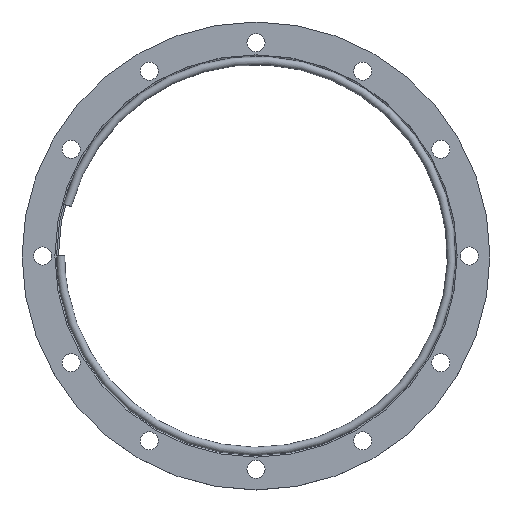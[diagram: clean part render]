
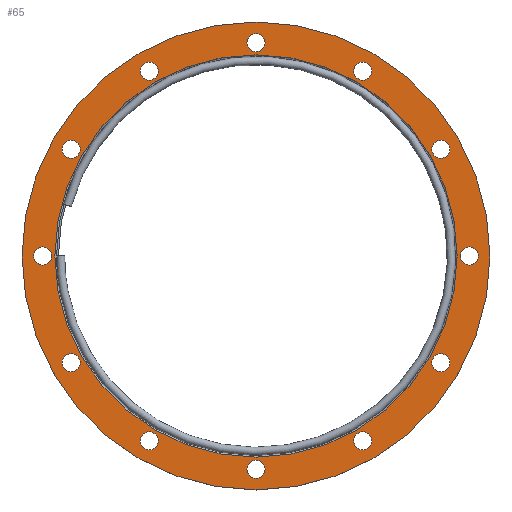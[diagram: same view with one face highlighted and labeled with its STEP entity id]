
A CAD part, top view. The second image highlights one B-rep face of the part: STEP entity #65.
In plain terms, the highlighted planar face has unit normal (0, 0, 1).
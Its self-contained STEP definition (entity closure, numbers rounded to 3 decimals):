
#65 = ADVANCED_FACE( '', ( #139, #140, #141, #142, #143, #144, #145, #146, #147, #148, #149, #150, #151, #152 ), #153, .T. );
#139 = FACE_BOUND( '', #262, .T. );
#140 = FACE_BOUND( '', #263, .T. );
#141 = FACE_BOUND( '', #264, .T. );
#142 = FACE_BOUND( '', #265, .T. );
#143 = FACE_BOUND( '', #266, .T. );
#144 = FACE_BOUND( '', #267, .T. );
#145 = FACE_BOUND( '', #268, .T. );
#146 = FACE_BOUND( '', #269, .T. );
#147 = FACE_BOUND( '', #270, .T. );
#148 = FACE_BOUND( '', #271, .T. );
#149 = FACE_BOUND( '', #272, .T. );
#150 = FACE_BOUND( '', #273, .T. );
#151 = FACE_BOUND( '', #274, .T. );
#152 = FACE_OUTER_BOUND( '', #275, .T. );
#153 = PLANE( '', #276 );
#262 = EDGE_LOOP( '', ( #383 ) );
#263 = EDGE_LOOP( '', ( #384 ) );
#264 = EDGE_LOOP( '', ( #385 ) );
#265 = EDGE_LOOP( '', ( #386 ) );
#266 = EDGE_LOOP( '', ( #387 ) );
#267 = EDGE_LOOP( '', ( #388 ) );
#268 = EDGE_LOOP( '', ( #389 ) );
#269 = EDGE_LOOP( '', ( #390 ) );
#270 = EDGE_LOOP( '', ( #391 ) );
#271 = EDGE_LOOP( '', ( #392 ) );
#272 = EDGE_LOOP( '', ( #393 ) );
#273 = EDGE_LOOP( '', ( #394 ) );
#274 = EDGE_LOOP( '', ( #395 ) );
#275 = EDGE_LOOP( '', ( #396 ) );
#276 = AXIS2_PLACEMENT_3D( '', #397, #398, #399 );
#383 = ORIENTED_EDGE( '', *, *, #521, .F. );
#384 = ORIENTED_EDGE( '', *, *, #522, .F. );
#385 = ORIENTED_EDGE( '', *, *, #523, .F. );
#386 = ORIENTED_EDGE( '', *, *, #510, .F. );
#387 = ORIENTED_EDGE( '', *, *, #524, .F. );
#388 = ORIENTED_EDGE( '', *, *, #525, .F. );
#389 = ORIENTED_EDGE( '', *, *, #526, .F. );
#390 = ORIENTED_EDGE( '', *, *, #527, .F. );
#391 = ORIENTED_EDGE( '', *, *, #528, .F. );
#392 = ORIENTED_EDGE( '', *, *, #529, .F. );
#393 = ORIENTED_EDGE( '', *, *, #530, .F. );
#394 = ORIENTED_EDGE( '', *, *, #531, .F. );
#395 = ORIENTED_EDGE( '', *, *, #514, .T. );
#396 = ORIENTED_EDGE( '', *, *, #532, .F. );
#397 = CARTESIAN_POINT( '', ( -122.5, 0., 16. ) );
#398 = DIRECTION( '', ( 0., 0., 1. ) );
#399 = DIRECTION( '', ( 1., 0., 0. ) );
#510 = EDGE_CURVE( '', #566, #566, #567, .T. );
#514 = EDGE_CURVE( '', #573, #573, #574, .T. );
#521 = EDGE_CURVE( '', #584, #584, #585, .T. );
#522 = EDGE_CURVE( '', #586, #586, #587, .T. );
#523 = EDGE_CURVE( '', #588, #588, #589, .T. );
#524 = EDGE_CURVE( '', #590, #590, #591, .T. );
#525 = EDGE_CURVE( '', #592, #592, #593, .T. );
#526 = EDGE_CURVE( '', #594, #594, #595, .T. );
#527 = EDGE_CURVE( '', #596, #596, #597, .T. );
#528 = EDGE_CURVE( '', #598, #598, #599, .T. );
#529 = EDGE_CURVE( '', #600, #600, #601, .T. );
#530 = EDGE_CURVE( '', #602, #602, #603, .T. );
#531 = EDGE_CURVE( '', #604, #604, #605, .T. );
#532 = EDGE_CURVE( '', #606, #606, #607, .T. );
#566 = VERTEX_POINT( '', #654 );
#567 = CIRCLE( '', #655, 5.5 );
#573 = VERTEX_POINT( '', #661 );
#574 = CIRCLE( '', #662, 122.5 );
#584 = VERTEX_POINT( '', #672 );
#585 = CIRCLE( '', #673, 5.5 );
#586 = VERTEX_POINT( '', #674 );
#587 = CIRCLE( '', #675, 5.5 );
#588 = VERTEX_POINT( '', #676 );
#589 = CIRCLE( '', #677, 5.5 );
#590 = VERTEX_POINT( '', #678 );
#591 = CIRCLE( '', #679, 5.5 );
#592 = VERTEX_POINT( '', #680 );
#593 = CIRCLE( '', #681, 5.5 );
#594 = VERTEX_POINT( '', #682 );
#595 = CIRCLE( '', #683, 5.5 );
#596 = VERTEX_POINT( '', #684 );
#597 = CIRCLE( '', #685, 5.5 );
#598 = VERTEX_POINT( '', #686 );
#599 = CIRCLE( '', #687, 5.5 );
#600 = VERTEX_POINT( '', #688 );
#601 = CIRCLE( '', #689, 5.5 );
#602 = VERTEX_POINT( '', #690 );
#603 = CIRCLE( '', #691, 5.5 );
#604 = VERTEX_POINT( '', #692 );
#605 = CIRCLE( '', #693, 5.5 );
#606 = VERTEX_POINT( '', #694 );
#607 = CIRCLE( '', #695, 142.5 );
#654 = CARTESIAN_POINT( '', ( 62.25, -107.82, 16. ) );
#655 = AXIS2_PLACEMENT_3D( '', #741, #742, #743 );
#661 = CARTESIAN_POINT( '', ( -122.5, 0., 16. ) );
#662 = AXIS2_PLACEMENT_3D( '', #750, #751, #752 );
#672 = CARTESIAN_POINT( '', ( -107.82, -62.25, 16. ) );
#673 = AXIS2_PLACEMENT_3D( '', #762, #763, #764 );
#674 = CARTESIAN_POINT( '', ( -62.25, -107.82, 16. ) );
#675 = AXIS2_PLACEMENT_3D( '', #765, #766, #767 );
#676 = CARTESIAN_POINT( '', ( 0., -124.5, 16. ) );
#677 = AXIS2_PLACEMENT_3D( '', #768, #769, #770 );
#678 = CARTESIAN_POINT( '', ( 107.82, -62.25, 16. ) );
#679 = AXIS2_PLACEMENT_3D( '', #771, #772, #773 );
#680 = CARTESIAN_POINT( '', ( 124.5, 0., 16. ) );
#681 = AXIS2_PLACEMENT_3D( '', #774, #775, #776 );
#682 = CARTESIAN_POINT( '', ( 107.82, 62.25, 16. ) );
#683 = AXIS2_PLACEMENT_3D( '', #777, #778, #779 );
#684 = CARTESIAN_POINT( '', ( 62.25, 107.82, 16. ) );
#685 = AXIS2_PLACEMENT_3D( '', #780, #781, #782 );
#686 = CARTESIAN_POINT( '', ( 0., 124.5, 16. ) );
#687 = AXIS2_PLACEMENT_3D( '', #783, #784, #785 );
#688 = CARTESIAN_POINT( '', ( -62.25, 107.82, 16. ) );
#689 = AXIS2_PLACEMENT_3D( '', #786, #787, #788 );
#690 = CARTESIAN_POINT( '', ( -107.82, 62.25, 16. ) );
#691 = AXIS2_PLACEMENT_3D( '', #789, #790, #791 );
#692 = CARTESIAN_POINT( '', ( -124.5, 0., 16. ) );
#693 = AXIS2_PLACEMENT_3D( '', #792, #793, #794 );
#694 = CARTESIAN_POINT( '', ( -142.5, 0., 16. ) );
#695 = AXIS2_PLACEMENT_3D( '', #795, #796, #797 );
#741 = CARTESIAN_POINT( '', ( 65., -112.583, 16. ) );
#742 = DIRECTION( '', ( 0., 0., 1. ) );
#743 = DIRECTION( '', ( -0.5, 0.866, 0. ) );
#750 = CARTESIAN_POINT( '', ( 0., 0., 16. ) );
#751 = DIRECTION( '', ( 0., 0., -1. ) );
#752 = DIRECTION( '', ( -1., 0., 0. ) );
#762 = CARTESIAN_POINT( '', ( -112.583, -65., 16. ) );
#763 = DIRECTION( '', ( 0., 0., 1. ) );
#764 = DIRECTION( '', ( 0.866, 0.5, 0. ) );
#765 = CARTESIAN_POINT( '', ( -65., -112.583, 16. ) );
#766 = DIRECTION( '', ( 0., 0., 1. ) );
#767 = DIRECTION( '', ( 0.5, 0.866, 0. ) );
#768 = CARTESIAN_POINT( '', ( 0., -130., 16. ) );
#769 = DIRECTION( '', ( 0., 0., 1. ) );
#770 = DIRECTION( '', ( 0., 1., 0. ) );
#771 = CARTESIAN_POINT( '', ( 112.583, -65., 16. ) );
#772 = DIRECTION( '', ( 0., 0., 1. ) );
#773 = DIRECTION( '', ( -0.866, 0.5, 0. ) );
#774 = CARTESIAN_POINT( '', ( 130., 0., 16. ) );
#775 = DIRECTION( '', ( 0., 0., 1. ) );
#776 = DIRECTION( '', ( -1., 0., 0. ) );
#777 = CARTESIAN_POINT( '', ( 112.583, 65., 16. ) );
#778 = DIRECTION( '', ( 0., 0., 1. ) );
#779 = DIRECTION( '', ( -0.866, -0.5, 0. ) );
#780 = CARTESIAN_POINT( '', ( 65., 112.583, 16. ) );
#781 = DIRECTION( '', ( 0., 0., 1. ) );
#782 = DIRECTION( '', ( -0.5, -0.866, 0. ) );
#783 = CARTESIAN_POINT( '', ( 0., 130., 16. ) );
#784 = DIRECTION( '', ( 0., 0., 1. ) );
#785 = DIRECTION( '', ( 0., -1., 0. ) );
#786 = CARTESIAN_POINT( '', ( -65., 112.583, 16. ) );
#787 = DIRECTION( '', ( 0., 0., 1. ) );
#788 = DIRECTION( '', ( 0.5, -0.866, 0. ) );
#789 = CARTESIAN_POINT( '', ( -112.583, 65., 16. ) );
#790 = DIRECTION( '', ( 0., 0., 1. ) );
#791 = DIRECTION( '', ( 0.866, -0.5, 0. ) );
#792 = CARTESIAN_POINT( '', ( -130., 0., 16. ) );
#793 = DIRECTION( '', ( 0., 0., 1. ) );
#794 = DIRECTION( '', ( 1., 0., 0. ) );
#795 = CARTESIAN_POINT( '', ( 0., 0., 16. ) );
#796 = DIRECTION( '', ( 0., 0., -1. ) );
#797 = DIRECTION( '', ( -1., 0., 0. ) );
